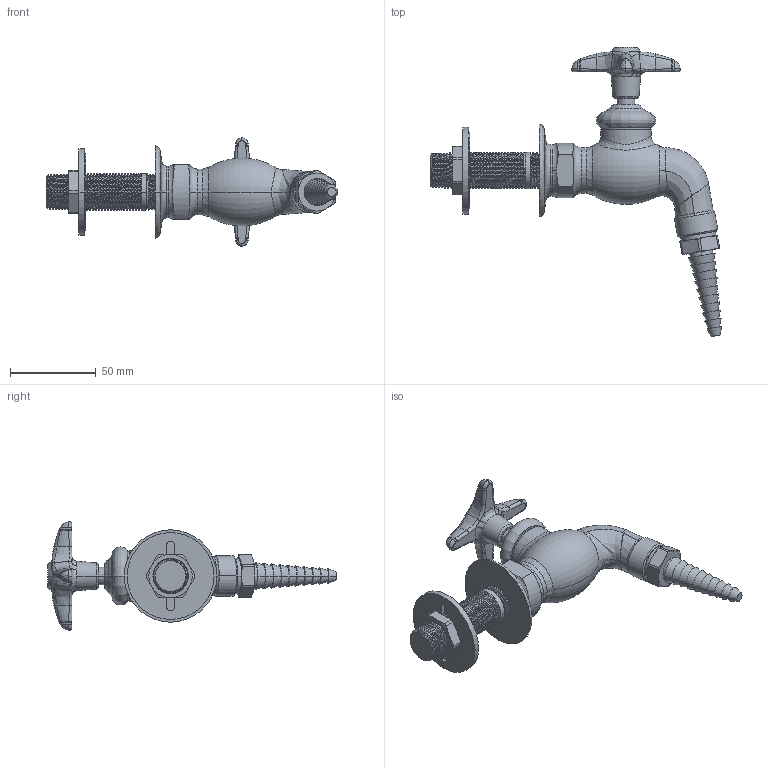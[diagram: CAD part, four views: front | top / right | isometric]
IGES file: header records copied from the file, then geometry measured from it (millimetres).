
Start section:  PTC IGES file: LWV4-A13.igs
Global section: file name: LWV4-A13.igs; native system: Creo Parametric by PTC Inc.; preprocessor: 2014500; author: usch_engrender; organization: Unknown; date: 20150915.131000; units: inch
Bounding box: 170.24 x 168.91 x 63.42 mm (x, y, z)
Volume: 157153.9 mm3; surface area: 36288.8 mm2
Topology: 1 solids, 3 shells, 436 faces, 1048 edges, 639 vertices
Faces by surface type: bspline 244, revolution 192
